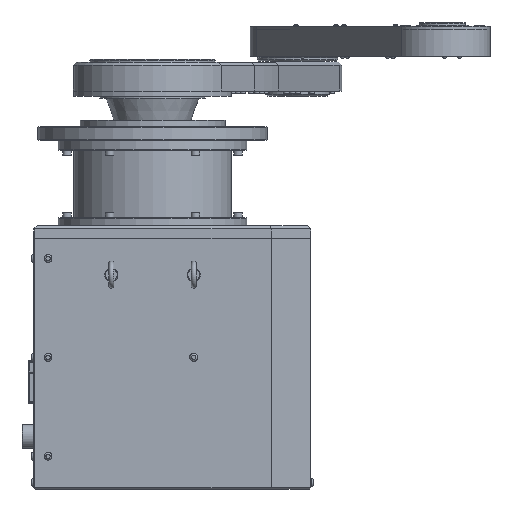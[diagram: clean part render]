
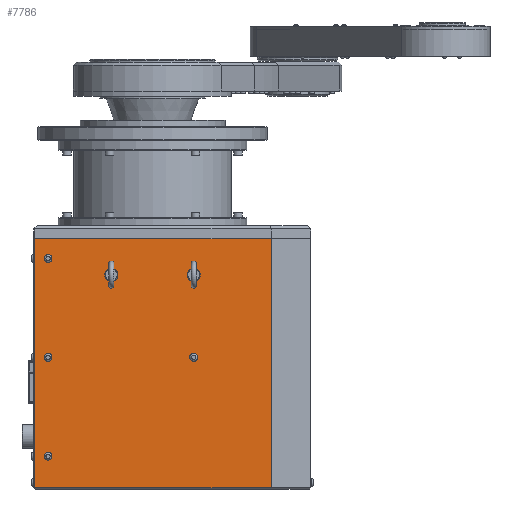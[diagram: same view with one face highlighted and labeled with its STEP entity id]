
A CAD part, front view. The second image highlights one B-rep face of the part: STEP entity #7786.
In plain terms, the highlighted planar face has unit normal (0, -1, 0).
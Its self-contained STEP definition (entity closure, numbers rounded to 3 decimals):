
#197=LINE('',#12946,#515);
#206=LINE('',#12960,#524);
#280=LINE('',#13396,#598);
#298=LINE('',#13430,#616);
#515=VECTOR('',#10170,359.);
#524=VECTOR('',#10181,378.);
#598=VECTOR('',#10573,359.);
#616=VECTOR('',#10603,378.);
#1082=PLANE('',#8648);
#1383=FACE_BOUND('',#2750,.T.);
#1384=FACE_BOUND('',#2751,.T.);
#1385=FACE_BOUND('',#2752,.T.);
#1386=FACE_BOUND('',#2753,.T.);
#1387=FACE_BOUND('',#2754,.T.);
#1388=FACE_BOUND('',#2755,.T.);
#1969=FACE_OUTER_BOUND('',#2749,.T.);
#2749=EDGE_LOOP('',(#6572,#6573,#6574,#6575));
#2750=EDGE_LOOP('',(#6576));
#2751=EDGE_LOOP('',(#6577));
#2752=EDGE_LOOP('',(#6578));
#2753=EDGE_LOOP('',(#6579));
#2754=EDGE_LOOP('',(#6580));
#2755=EDGE_LOOP('',(#6581));
#3403=CIRCLE('',#8140,10.);
#3405=CIRCLE('',#8145,10.);
#3412=CIRCLE('',#8159,6.);
#3442=CIRCLE('',#8216,6.);
#3449=CIRCLE('',#8229,6.);
#3456=CIRCLE('',#8242,6.);
#3984=VERTEX_POINT('',#12136);
#3988=VERTEX_POINT('',#12189);
#3997=VERTEX_POINT('',#12256);
#4027=VERTEX_POINT('',#12343);
#4034=VERTEX_POINT('',#12363);
#4041=VERTEX_POINT('',#12383);
#4223=VERTEX_POINT('',#12943);
#4224=VERTEX_POINT('',#12945);
#4228=VERTEX_POINT('',#12958);
#4335=VERTEX_POINT('',#13395);
#4712=EDGE_CURVE('',#3984,#3984,#3403,.T.);
#4716=EDGE_CURVE('',#3988,#3988,#3405,.T.);
#4725=EDGE_CURVE('',#3997,#3997,#3412,.T.);
#4755=EDGE_CURVE('',#4027,#4027,#3442,.T.);
#4762=EDGE_CURVE('',#4034,#4034,#3449,.T.);
#4769=EDGE_CURVE('',#4041,#4041,#3456,.T.);
#5017=EDGE_CURVE('',#4224,#4223,#197,.T.);
#5026=EDGE_CURVE('',#4228,#4223,#206,.T.);
#5183=EDGE_CURVE('',#4335,#4228,#280,.T.);
#5201=EDGE_CURVE('',#4335,#4224,#298,.T.);
#6572=ORIENTED_EDGE('',*,*,#5017,.T.);
#6573=ORIENTED_EDGE('',*,*,#5026,.F.);
#6574=ORIENTED_EDGE('',*,*,#5183,.F.);
#6575=ORIENTED_EDGE('',*,*,#5201,.T.);
#6576=ORIENTED_EDGE('',*,*,#4712,.T.);
#6577=ORIENTED_EDGE('',*,*,#4716,.T.);
#6578=ORIENTED_EDGE('',*,*,#4755,.T.);
#6579=ORIENTED_EDGE('',*,*,#4769,.T.);
#6580=ORIENTED_EDGE('',*,*,#4762,.T.);
#6581=ORIENTED_EDGE('',*,*,#4725,.T.);
#7786=ADVANCED_FACE('',(#1969,#1383,#1384,#1385,#1386,#1387,#1388),#1082,
 .T.);
#8140=AXIS2_PLACEMENT_3D('',#12137,#9346,#9347);
#8145=AXIS2_PLACEMENT_3D('',#12190,#9356,#9357);
#8159=AXIS2_PLACEMENT_3D('',#12257,#9384,#9385);
#8216=AXIS2_PLACEMENT_3D('',#12344,#9498,#9499);
#8229=AXIS2_PLACEMENT_3D('',#12364,#9524,#9525);
#8242=AXIS2_PLACEMENT_3D('',#12384,#9550,#9551);
#8648=AXIS2_PLACEMENT_3D('',#13429,#10601,#10602);
#9346=DIRECTION('center_axis',(0.,1.,0.));
#9347=DIRECTION('ref_axis',(-1.,0.,0.));
#9356=DIRECTION('center_axis',(0.,1.,0.));
#9357=DIRECTION('ref_axis',(-1.,0.,0.));
#9384=DIRECTION('center_axis',(0.,1.,0.));
#9385=DIRECTION('ref_axis',(-1.,0.,0.));
#9498=DIRECTION('center_axis',(0.,1.,0.));
#9499=DIRECTION('ref_axis',(-1.,0.,0.));
#9524=DIRECTION('center_axis',(0.,1.,0.));
#9525=DIRECTION('ref_axis',(-1.,0.,0.));
#9550=DIRECTION('center_axis',(0.,1.,0.));
#9551=DIRECTION('ref_axis',(-1.,0.,0.));
#10170=DIRECTION('',(-1.,0.,0.));
#10181=DIRECTION('',(0.,0.,1.));
#10573=DIRECTION('',(-1.,0.,0.));
#10601=DIRECTION('center_axis',(0.,-1.,0.));
#10602=DIRECTION('ref_axis',(0.,0.,-1.));
#10603=DIRECTION('',(0.,0.,1.));
#12136=CARTESIAN_POINT('',(72.5,-165.,325.));
#12137=CARTESIAN_POINT('Origin',(62.5,-165.,325.));
#12189=CARTESIAN_POINT('',(-52.5,-165.,325.));
#12190=CARTESIAN_POINT('Origin',(-62.5,-165.,325.));
#12256=CARTESIAN_POINT('',(68.5,-165.,200.));
#12257=CARTESIAN_POINT('Origin',(62.5,-165.,200.));
#12343=CARTESIAN_POINT('',(-152.5,-165.,50.));
#12344=CARTESIAN_POINT('Origin',(-158.5,-165.,50.));
#12363=CARTESIAN_POINT('',(-152.5,-165.,200.));
#12364=CARTESIAN_POINT('Origin',(-158.5,-165.,200.));
#12383=CARTESIAN_POINT('',(-152.5,-165.,350.));
#12384=CARTESIAN_POINT('Origin',(-158.5,-165.,350.));
#12943=CARTESIAN_POINT('',(-179.,-165.,380.));
#12945=CARTESIAN_POINT('',(180.,-165.,380.));
#12946=CARTESIAN_POINT('',(99.398,-165.,380.));
#12958=CARTESIAN_POINT('',(-179.,-165.,2.));
#12960=CARTESIAN_POINT('',(-179.,-165.,0.));
#13395=CARTESIAN_POINT('',(180.,-165.,2.));
#13396=CARTESIAN_POINT('',(99.398,-165.,2.));
#13429=CARTESIAN_POINT('Origin',(180.,-165.,0.));
#13430=CARTESIAN_POINT('',(180.,-165.,0.));
